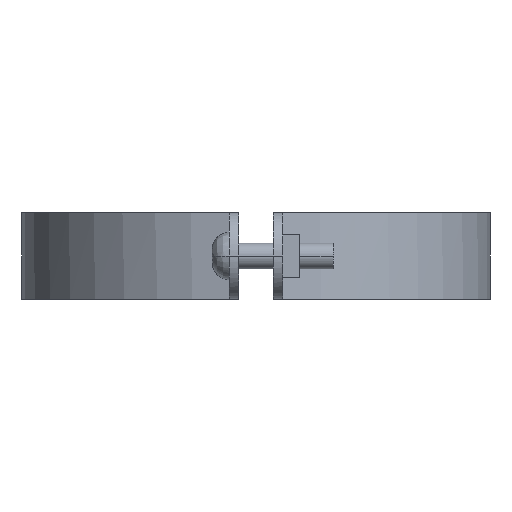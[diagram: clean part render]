
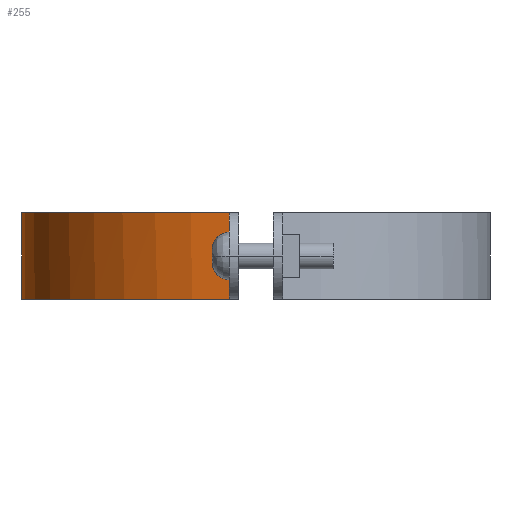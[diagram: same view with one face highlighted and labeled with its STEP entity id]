
A CAD part, left-side view. The second image highlights one B-rep face of the part: STEP entity #255.
In plain terms, the highlighted free-form (B-spline) face has degree [3, 1] with [4, 2] control points.
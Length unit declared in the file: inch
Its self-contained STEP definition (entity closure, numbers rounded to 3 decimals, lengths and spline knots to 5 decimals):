
#255=ADVANCED_FACE('',(#502),#503,.T.);
#502=FACE_OUTER_BOUND('',#910,.T.);
#503=B_SPLINE_SURFACE_WITH_KNOTS('',3,1,((#911,#912),(#913,#914),(#915,#916),(#917,#918)),.UNSPECIFIED.,.F.,.F.,.F.,(4,4),(2,2),(-1.0,-0.0),(0.0,1.25),.UNSPECIFIED.);
#910=EDGE_LOOP('',(#1675,#1676,#1677,#1678));
#911=CARTESIAN_POINT('',(4.0934,6.80141,0.0));
#912=CARTESIAN_POINT('',(4.0934,6.80141,1.25));
#913=CARTESIAN_POINT('',(2.37295,6.80141,0.0));
#914=CARTESIAN_POINT('',(2.37295,6.80141,1.25));
#915=CARTESIAN_POINT('',(0.92619,5.51083,0.0));
#916=CARTESIAN_POINT('',(0.92619,5.51083,1.25));
#917=CARTESIAN_POINT('',(0.73052,3.80155,0.0));
#918=CARTESIAN_POINT('',(0.73052,3.80155,1.25));
#1675=ORIENTED_EDGE('',*,*,#2044,.T.);
#1676=ORIENTED_EDGE('',*,*,#2004,.T.);
#1677=ORIENTED_EDGE('',*,*,#2135,.T.);
#1678=ORIENTED_EDGE('',*,*,#2158,.F.);
#2004=EDGE_CURVE('',#2273,#2280,#2282,.T.);
#2044=EDGE_CURVE('',#2342,#2273,#2350,.T.);
#2135=EDGE_CURVE('',#2280,#2492,#2494,.T.);
#2158=EDGE_CURVE('',#2342,#2492,#2526,.T.);
#2273=VERTEX_POINT('',#2686);
#2280=VERTEX_POINT('',#2700);
#2282=LINE('',#2703,#2704);
#2342=VERTEX_POINT('',#2820);
#2350=B_SPLINE_CURVE_WITH_KNOTS('',3,(#2833,#2834,#2835,#2836),.UNSPECIFIED.,.F.,.F.,(4,4),(-1.0,-0.0),.UNSPECIFIED.);
#2492=VERTEX_POINT('',#3098);
#2494=B_SPLINE_CURVE_WITH_KNOTS('',3,(#3101,#3102,#3103,#3104),.UNSPECIFIED.,.F.,.F.,(4,4),(0.0,1.0),.UNSPECIFIED.);
#2526=LINE('',#3157,#3158);
#2686=CARTESIAN_POINT('',(0.73052,3.80155,0.00011));
#2700=CARTESIAN_POINT('',(0.73052,3.80155,1.24992));
#2703=CARTESIAN_POINT('',(0.73052,3.80155,0.0));
#2704=VECTOR('',#3377,1.0);
#2820=CARTESIAN_POINT('',(4.0934,6.80141,0.00011));
#2833=CARTESIAN_POINT('',(4.0934,6.80141,0.00011));
#2834=CARTESIAN_POINT('',(2.37295,6.80141,0.00011));
#2835=CARTESIAN_POINT('',(0.92619,5.51083,0.00011));
#2836=CARTESIAN_POINT('',(0.73052,3.80155,0.00011));
#3098=CARTESIAN_POINT('',(4.0934,6.80141,1.24992));
#3101=CARTESIAN_POINT('',(0.73052,3.80155,1.24992));
#3102=CARTESIAN_POINT('',(0.92619,5.51083,1.24992));
#3103=CARTESIAN_POINT('',(2.37295,6.80141,1.24992));
#3104=CARTESIAN_POINT('',(4.0934,6.80141,1.24992));
#3157=CARTESIAN_POINT('',(4.0934,6.80141,0.0));
#3158=VECTOR('',#3464,1.0);
#3377=DIRECTION('',(0.0,0.0,1.0));
#3464=DIRECTION('',(0.0,0.0,1.0));
